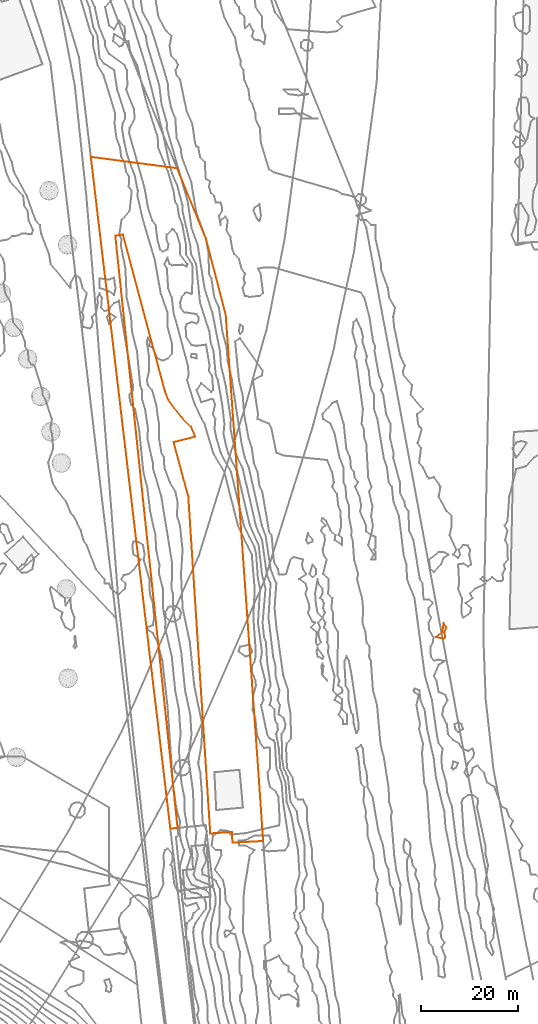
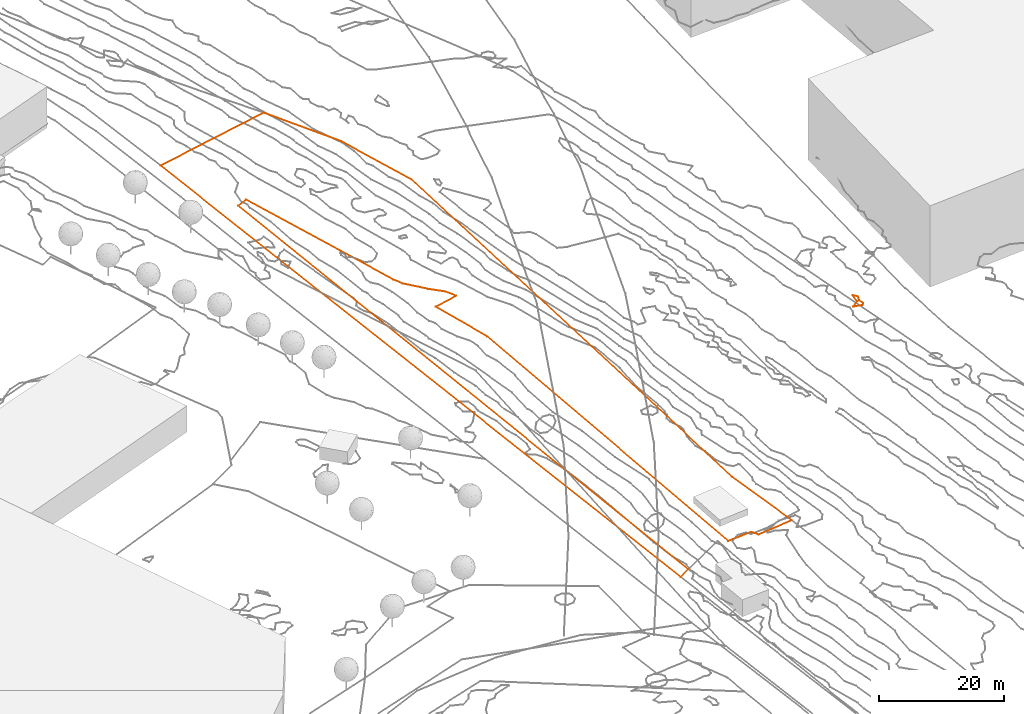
# Not in any storey, part 301 of 419: 2 proxies.
"""IFC2X3 model written with IfcOpenShell, lengths in metres."""

from ifc_helpers import new_model, entity, si_unit, frame, origin_with_axes, place, context, subcontext, project, element, save


model = new_model("IFC2X3")

# Units and contexts
model_context = context("Model", 3, precision=1e-05, world=origin_with_axes())
body_context = subcontext(model_context, "Body", "Model", "MODEL_VIEW")
ifc_project = project(units=[si_unit("AREAUNIT", "SQUARE_METRE"), si_unit("LENGTHUNIT", "METRE")], contexts=[model_context])

# Proxies
proxy_1_placement = place(None, frame((116.3120204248, 985.9576909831, 23.519968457), z_axis=(0.0, 0.0, 1.0), x_axis=(1.0, 0.0, 0.0)))
element("IfcBuildingElementProxy", 1, at=proxy_1_placement, Name="Cadastre 285", ObjectType="NOTDEFINED", context=body_context, shape_type="GeometricCurveSet", body=[
    entity("IfcGeometricCurveSet", [entity("IfcPolyline", [entity("IfcCartesianPoint", [17.79, -2.3300000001, 5.5463128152]), entity("IfcCartesianPoint", [23.74, -16.8300000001, 6.6767472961]), entity("IfcCartesianPoint", [27.8200000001, -32.5100000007, 7.2220320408]), entity("IfcCartesianPoint", [34.3600000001, -123.96, 2.1769919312]), entity("IfcCartesianPoint", [35.55, -141.1500000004, 3.6288821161]), entity("IfcCartesianPoint", [29.2100000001, -141.4900000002, 3.2890846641]), entity("IfcCartesianPoint", [29.1100000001, -139.29, 2.4783044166]), entity("IfcCartesianPoint", [24.64, -139.6000000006, 2.4641114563]), entity("IfcCartesianPoint", [20.1100000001, -70.1000000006, 1.9880313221]), entity("IfcCartesianPoint", [17.0700000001, -58.8400000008, 2.0319112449]), entity("IfcCartesianPoint", [21.53, -57.7000000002, 1.9295816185]), entity("IfcCartesianPoint", [20.65, -55.6700000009, 1.8519965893]), entity("IfcCartesianPoint", [18.67, -53.6900000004, 1.8371460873]), entity("IfcCartesianPoint", [15.9800000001, -50.1500000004, 1.7085710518]), entity("IfcCartesianPoint", [15.27, -48.3400000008, 1.6465435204]), entity("IfcCartesianPoint", [6.62, -16.0100000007, 0.6977813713]), entity("IfcCartesianPoint", [5.04, -16.2600000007, 0.2193511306]), entity("IfcCartesianPoint", [17.9, -138.4500000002, -1.4357860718]), entity("IfcCartesianPoint", [16.4, -138.6000000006, -2.3284331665]), entity("IfcCartesianPoint", [0.0, 0.0, 0.0]), entity("IfcCartesianPoint", [17.79, -2.3300000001, 5.5463128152])])]),
])
proxy_2_placement = place(None, frame((187.4920204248, 886.8976909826, 31.0), z_axis=(0.0, 0.0, 1.0), x_axis=(1.0, 0.0, 0.0)))
element("IfcBuildingElementProxy", 2, at=proxy_2_placement, Name="Contour 31.0 m", ObjectType="NOTDEFINED", context=body_context, shape_type="GeometricCurveSet", body=[
    entity("IfcGeometricCurveSet", [entity("IfcPolyline", [entity("IfcCartesianPoint", [1.6, -0.333333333, 0.0]), entity("IfcCartesianPoint", [1.9333333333, 0.0, 0.0]), entity("IfcCartesianPoint", [1.7666719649, 1.0, 0.0]), entity("IfcCartesianPoint", [2.1555461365, 2.0, 0.0]), entity("IfcCartesianPoint", [1.6, 2.8333280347, 0.0]), entity("IfcCartesianPoint", [1.35, 1.0, 0.0]), entity("IfcCartesianPoint", [0.0, 0.0, 0.0]), entity("IfcCartesianPoint", [1.6, -0.333333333, 0.0])])]),
])

save(model, "model.ifc")
